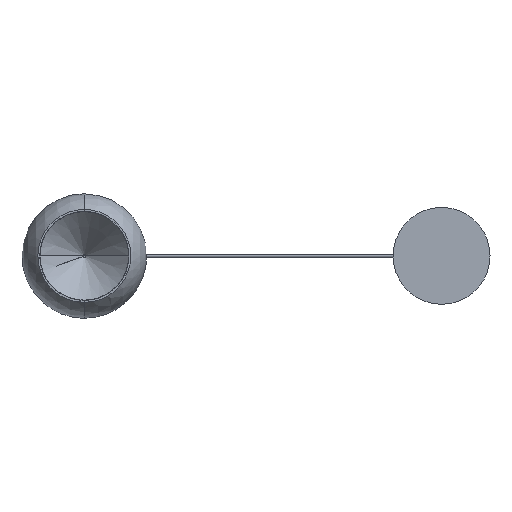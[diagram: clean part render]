
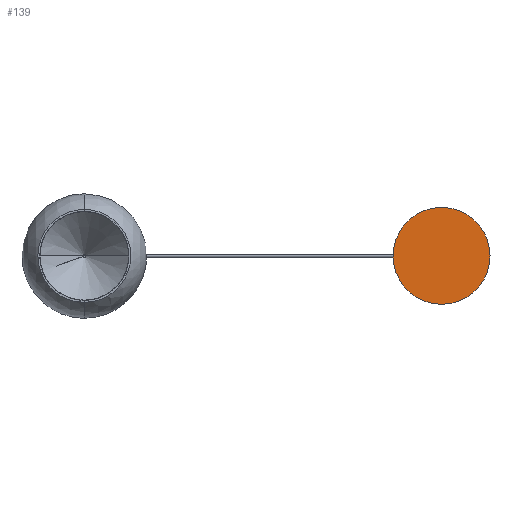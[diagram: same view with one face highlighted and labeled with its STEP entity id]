
A CAD part, front view. The second image highlights one B-rep face of the part: STEP entity #139.
In plain terms, the highlighted planar face has unit normal (0, -1, 0).
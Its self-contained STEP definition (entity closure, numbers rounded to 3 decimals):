
#48 = ORIENTED_EDGE ( 'NONE', *, *, #55, .F. ) ;
#55 = EDGE_CURVE ( 'NONE', #1498, #1195, #540, .T. ) ;
#139 = ADVANCED_FACE ( 'NONE', ( #259 ), #943, .F. ) ;
#224 = DIRECTION ( 'NONE',  ( 0., 0., 1. ) ) ;
#259 = FACE_OUTER_BOUND ( 'NONE', #1237, .T. ) ;
#266 = DIRECTION ( 'NONE',  ( 0., 1., 0. ) ) ;
#271 = AXIS2_PLACEMENT_3D ( 'NONE', #553, #807, #224 ) ;
#355 = CARTESIAN_POINT ( 'NONE',  ( 0., 0., 70. ) ) ;
#357 = DIRECTION ( 'NONE',  ( 0., 0., 1. ) ) ;
#364 = CARTESIAN_POINT ( 'NONE',  ( 0., 0., 0. ) ) ;
#460 = EDGE_CURVE ( 'NONE', #1195, #1498, #1334, .T. ) ;
#471 = AXIS2_PLACEMENT_3D ( 'NONE', #609, #1142, #357 ) ;
#540 = CIRCLE ( 'NONE', #271, 70. ) ;
#553 = CARTESIAN_POINT ( 'NONE',  ( 0., 0., 0. ) ) ;
#609 = CARTESIAN_POINT ( 'NONE',  ( 0., 0., 0. ) ) ;
#807 = DIRECTION ( 'NONE',  ( 0., 1., 0. ) ) ;
#850 = CARTESIAN_POINT ( 'NONE',  ( 0., 0., -70. ) ) ;
#854 = AXIS2_PLACEMENT_3D ( 'NONE', #364, #266, #1415 ) ;
#943 = PLANE ( 'NONE',  #854 ) ;
#1142 = DIRECTION ( 'NONE',  ( 0., 1., 0. ) ) ;
#1148 = ORIENTED_EDGE ( 'NONE', *, *, #460, .F. ) ;
#1195 = VERTEX_POINT ( 'NONE', #355 ) ;
#1237 = EDGE_LOOP ( 'NONE', ( #48, #1148 ) ) ;
#1334 = CIRCLE ( 'NONE', #471, 70. ) ;
#1415 = DIRECTION ( 'NONE',  ( 0., 0., 1. ) ) ;
#1498 = VERTEX_POINT ( 'NONE', #850 ) ;
